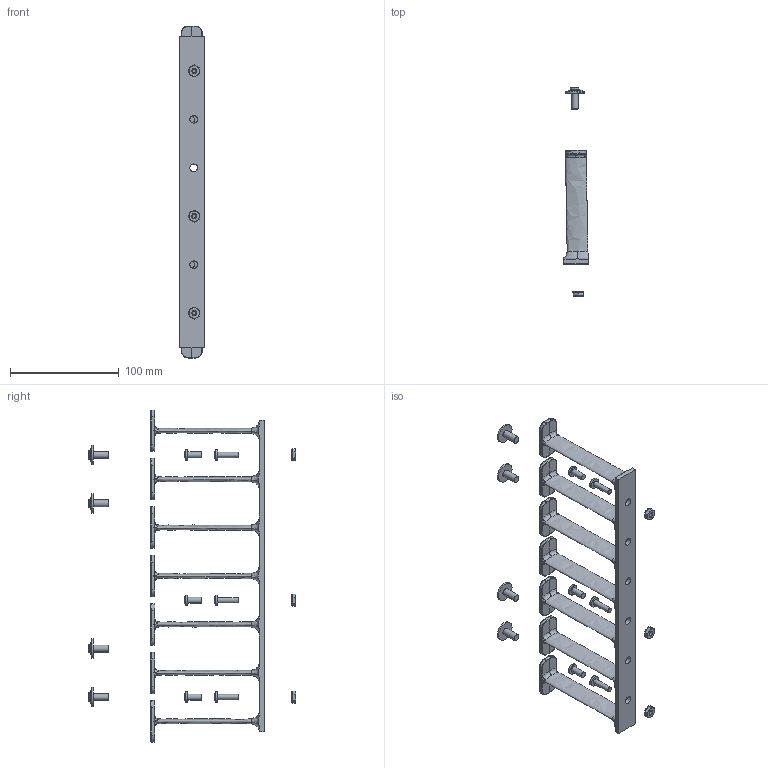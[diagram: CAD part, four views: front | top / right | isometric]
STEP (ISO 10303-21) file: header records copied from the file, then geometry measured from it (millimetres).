
FILE_DESCRIPTION(/* description */ ('#10-32 STEEL HEX NUT ZN PLATE'),/* implementation_level */ '2;1');
FILE_NAME(/* name */ 'Y:\Inventor\I014XXX\I014991\I014991.stp',/* time_stamp */ '2015-05-20T09:45:16-04:00',/* author */ ('dustinh'),/* organization */ (''),/* preprocessor_version */ 'ST-DEVELOPER v15.6',/* originating_system */ 'Autodesk Inventor 2015',/* authorisation */ '');
FILE_SCHEMA (('AUTOMOTIVE_DESIGN { 1 0 10303 214 3 1 1 }'));
Length unit declared in the file: inch
Products named in the file (8): 1032HXNUT; #23954; H02-001; H01-265; I013299; 30063008-05004D; H01-085; I014991
Assembly tree (16 placements, depth 3):
  I014991
    H02-001  x3
      1032HXNUT
      #23954
    H01-265  x3
    I013299
    30063008-05004D  x4
    H01-085  x3
Bounding box: 22.22 x 190.94 x 304.8 mm (x, y, z)
Volume: 104156.3 mm3; surface area: 61098.6 mm2
Topology: 17 solids, 17 shells, 733 faces, 1811 edges, 1122 vertices
Faces by surface type: plane 292, cylinder 276, bspline 126, sphere 20, cone 19
Full cylindrical faces by diameter (mm): 3.967 x3, 4.358 x4, 4.826 x3, 4.953 x3, 5.486 x3, 6.35 x4, 7.01 x6, 7.938 x4, 9.525 x6, 17.78 x4
Entity records: 23964 total; most frequent: CARTESIAN_POINT 12614, ORIENTED_EDGE 2380, DIRECTION 2230, EDGE_CURVE 1190, AXIS2_PLACEMENT_3D 854, VERTEX_POINT 730, EDGE_LOOP 538, LINE 522
